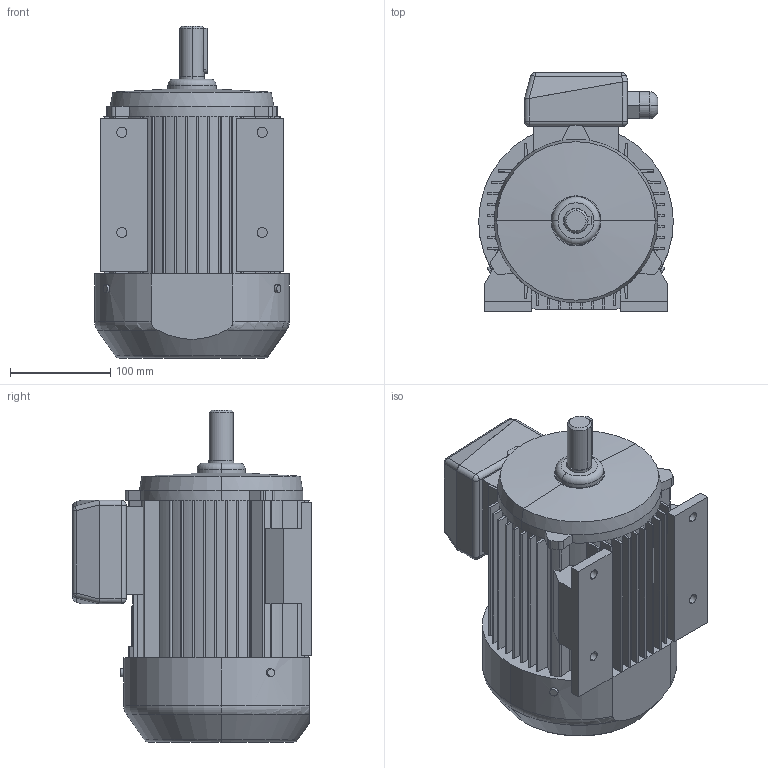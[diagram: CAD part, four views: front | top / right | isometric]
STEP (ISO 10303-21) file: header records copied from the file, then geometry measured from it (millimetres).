
FILE_DESCRIPTION (( 'STEP AP203' ), '1' );
FILE_NAME ('3SIE90S2,4,6.STEP', '2016-02-08T11:49:27', ( 'Indukta' ), ( 'Celma Indukta S.A.' ), 'SwSTEP 2.0', 'SolidWorks 2003064', '' );
FILE_SCHEMA (( 'CONFIG_CONTROL_DESIGN' ));
Length unit declared in the file: millimetre
Products named in the file (1): 3SIE90S2,4,6
Bounding box: 194 x 238 x 331 mm (x, y, z)
Volume: 7203691.3 mm3; surface area: 383887.5 mm2
Topology: 1 solids, 1 shells, 554 faces, 1502 edges, 957 vertices
Faces by surface type: plane 292, cylinder 159, bspline 78, torus 9, cone 8, sphere 8
Entity records: 23580 total; most frequent: CARTESIAN_POINT 9808, ORIENTED_EDGE 2988, DIRECTION 2686, EDGE_CURVE 1494, VERTEX_POINT 957, LINE 904, VECTOR 904, AXIS2_PLACEMENT_3D 891
